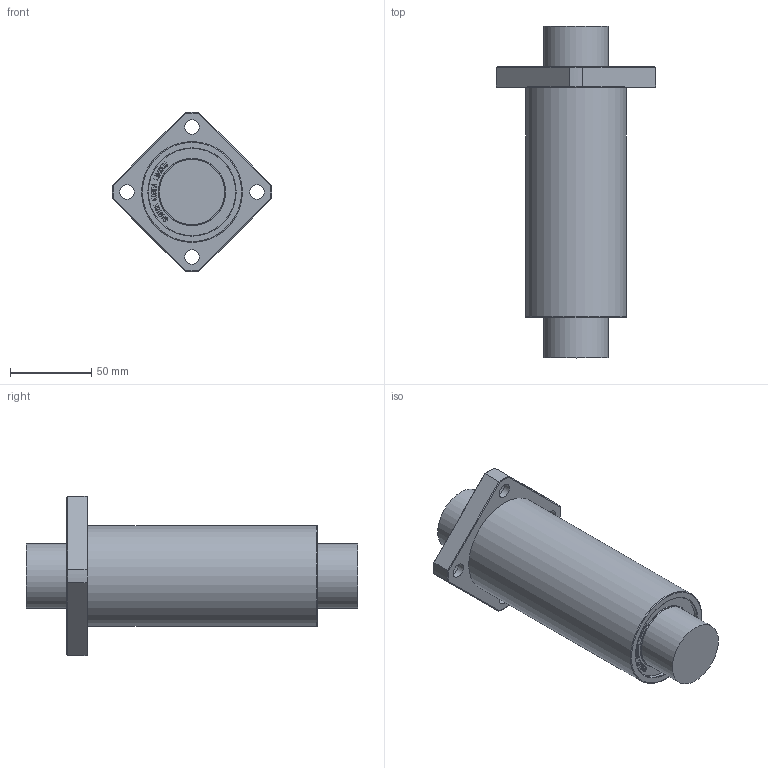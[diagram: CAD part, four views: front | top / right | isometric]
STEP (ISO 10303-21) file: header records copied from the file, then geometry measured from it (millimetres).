
FILE_DESCRIPTION(/* description */ (''),/* implementation_level */ '2;1');
FILE_NAME(/* name */ 'W:\(01) 2024년 홈페이지 CAD파일 최신화\LMEK_L\IPT\LMEK40LUU.stp',/* time_stamp */ '2025-01-25T11:02:33+09:00',/* author */ ('서우현'),/* organization */ (''),/* preprocessor_version */ 'ST-DEVELOPER v17.2',/* originating_system */ 'Autodesk Inventor 2019',/* authorisation */ '');
FILE_SCHEMA (('AUTOMOTIVE_DESIGN { 1 0 10303 214 3 1 1 }'));
Length unit declared in the file: millimetre
Products named in the file (1): LM5
Bounding box: 97.96 x 204 x 97.96 mm (x, y, z)
Volume: 549703.8 mm3; surface area: 51314.9 mm2
Topology: 1 solids, 1 shells, 858 faces, 2402 edges, 1604 vertices
Faces by surface type: bspline 572, plane 254, cylinder 18, cone 12, torus 2
Full cylindrical faces by diameter (mm): 9 x4, 14 x4, 40 x2, 53.65 x2, 62 x2
Entity records: 29360 total; most frequent: CARTESIAN_POINT 10725, ORIENTED_EDGE 4804, EDGE_CURVE 2402, DIRECTION 1898, VERTEX_POINT 1604, LINE 1160, VECTOR 1160, B_SPLINE_CURVE_WITH_KNOTS 1144
